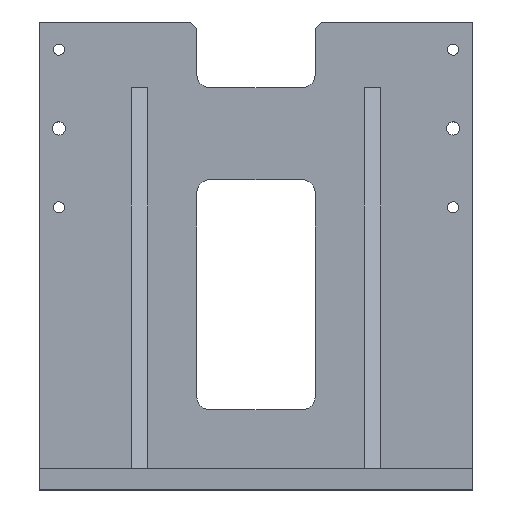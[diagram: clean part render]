
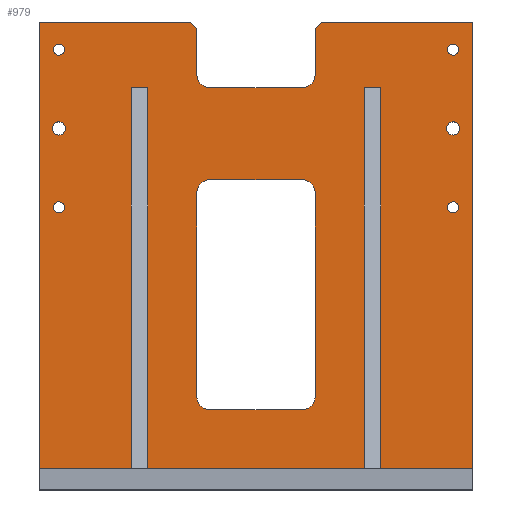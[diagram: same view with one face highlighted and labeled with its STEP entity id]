
A CAD part, top view. The second image highlights one B-rep face of the part: STEP entity #979.
In plain terms, the highlighted planar face has unit normal (0, 0, 1).
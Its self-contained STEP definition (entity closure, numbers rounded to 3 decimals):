
#19=FACE_BOUND($,#149,.T.);
#20=FACE_BOUND($,#150,.T.);
#21=FACE_BOUND($,#151,.T.);
#22=FACE_BOUND($,#152,.T.);
#23=FACE_BOUND($,#153,.T.);
#24=FACE_BOUND($,#154,.T.);
#25=FACE_BOUND($,#155,.T.);
#26=FACE_BOUND($,#156,.T.);
#65=PLANE($,#1047);
#149=EDGE_LOOP($,(#739,#740,#741,#742,#743,#744,#745,#746));
#150=EDGE_LOOP($,(#747,#748,#749,#750,#751,#752,#753,#754,#755,#756,#757,
#758,#759,#760,#761,#762,#763,#764,#765,#766));
#151=EDGE_LOOP($,(#767));
#152=EDGE_LOOP($,(#768));
#153=EDGE_LOOP($,(#769));
#154=EDGE_LOOP($,(#770));
#155=EDGE_LOOP($,(#771));
#156=EDGE_LOOP($,(#772));
#215=LINE($,#1371,#305);
#218=LINE($,#1382,#308);
#223=LINE($,#1395,#313);
#225=LINE($,#1403,#315);
#244=LINE($,#1458,#334);
#248=LINE($,#1464,#338);
#250=LINE($,#1469,#340);
#252=LINE($,#1473,#342);
#256=LINE($,#1484,#346);
#257=LINE($,#1487,#347);
#258=LINE($,#1489,#348);
#259=LINE($,#1491,#349);
#260=LINE($,#1493,#350);
#261=LINE($,#1495,#351);
#262=LINE($,#1497,#352);
#263=LINE($,#1499,#353);
#264=LINE($,#1501,#354);
#265=LINE($,#1503,#355);
#266=LINE($,#1505,#356);
#267=LINE($,#1507,#357);
#268=LINE($,#1509,#358);
#269=LINE($,#1510,#359);
#305=VECTOR($,#1110,155.);
#308=VECTOR($,#1121,70.);
#313=VECTOR($,#1134,70.);
#315=VECTOR($,#1144,155.);
#334=VECTOR($,#1187,7.071);
#338=VECTOR($,#1193,35.);
#340=VECTOR($,#1197,7.071);
#342=VECTOR($,#1201,35.);
#346=VECTOR($,#1215,70.);
#347=VECTOR($,#1218,115.);
#348=VECTOR($,#1219,340.);
#349=VECTOR($,#1220,70.);
#350=VECTOR($,#1221,290.);
#351=VECTOR($,#1222,12.7);
#352=VECTOR($,#1223,290.);
#353=VECTOR($,#1224,164.6);
#354=VECTOR($,#1225,290.);
#355=VECTOR($,#1226,12.7);
#356=VECTOR($,#1227,290.);
#357=VECTOR($,#1228,70.);
#358=VECTOR($,#1229,340.);
#359=VECTOR($,#1230,115.);
#390=CIRCLE($,#1013,10.);
#392=CIRCLE($,#1017,10.);
#394=CIRCLE($,#1021,10.);
#396=CIRCLE($,#1025,10.);
#405=CIRCLE($,#1043,10.);
#406=CIRCLE($,#1045,10.);
#407=CIRCLE($,#1048,5.);
#408=CIRCLE($,#1049,5.);
#409=CIRCLE($,#1050,4.188);
#410=CIRCLE($,#1051,4.188);
#411=CIRCLE($,#1052,4.188);
#412=CIRCLE($,#1053,4.188);
#427=VERTEX_POINT($,#1357);
#428=VERTEX_POINT($,#1359);
#432=VERTEX_POINT($,#1369);
#435=VERTEX_POINT($,#1376);
#436=VERTEX_POINT($,#1378);
#438=VERTEX_POINT($,#1387);
#440=VERTEX_POINT($,#1393);
#442=VERTEX_POINT($,#1399);
#465=VERTEX_POINT($,#1456);
#466=VERTEX_POINT($,#1457);
#467=VERTEX_POINT($,#1462);
#468=VERTEX_POINT($,#1466);
#469=VERTEX_POINT($,#1468);
#470=VERTEX_POINT($,#1472);
#471=VERTEX_POINT($,#1476);
#472=VERTEX_POINT($,#1480);
#473=VERTEX_POINT($,#1486);
#474=VERTEX_POINT($,#1488);
#475=VERTEX_POINT($,#1490);
#476=VERTEX_POINT($,#1492);
#477=VERTEX_POINT($,#1494);
#478=VERTEX_POINT($,#1496);
#479=VERTEX_POINT($,#1498);
#480=VERTEX_POINT($,#1500);
#481=VERTEX_POINT($,#1502);
#482=VERTEX_POINT($,#1504);
#483=VERTEX_POINT($,#1506);
#484=VERTEX_POINT($,#1508);
#485=VERTEX_POINT($,#1511);
#486=VERTEX_POINT($,#1513);
#487=VERTEX_POINT($,#1515);
#488=VERTEX_POINT($,#1517);
#489=VERTEX_POINT($,#1519);
#490=VERTEX_POINT($,#1521);
#519=EDGE_CURVE($,#427,#428,#390,.T.);
#525=EDGE_CURVE($,#427,#432,#215,.T.);
#528=EDGE_CURVE($,#435,#436,#392,.T.);
#530=EDGE_CURVE($,#435,#428,#218,.T.);
#534=EDGE_CURVE($,#438,#432,#394,.T.);
#537=EDGE_CURVE($,#438,#440,#223,.T.);
#540=EDGE_CURVE($,#442,#440,#396,.T.);
#541=EDGE_CURVE($,#442,#436,#225,.T.);
#568=EDGE_CURVE($,#465,#466,#244,.T.);
#572=EDGE_CURVE($,#465,#467,#248,.T.);
#574=EDGE_CURVE($,#468,#469,#250,.T.);
#576=EDGE_CURVE($,#470,#469,#252,.T.);
#578=EDGE_CURVE($,#471,#467,#405,.T.);
#580=EDGE_CURVE($,#470,#472,#406,.T.);
#582=EDGE_CURVE($,#471,#472,#256,.T.);
#583=EDGE_CURVE($,#468,#473,#257,.T.);
#584=EDGE_CURVE($,#473,#474,#258,.T.);
#585=EDGE_CURVE($,#474,#475,#259,.T.);
#586=EDGE_CURVE($,#475,#476,#260,.T.);
#587=EDGE_CURVE($,#476,#477,#261,.T.);
#588=EDGE_CURVE($,#477,#478,#262,.T.);
#589=EDGE_CURVE($,#478,#479,#263,.T.);
#590=EDGE_CURVE($,#479,#480,#264,.T.);
#591=EDGE_CURVE($,#480,#481,#265,.T.);
#592=EDGE_CURVE($,#481,#482,#266,.T.);
#593=EDGE_CURVE($,#482,#483,#267,.T.);
#594=EDGE_CURVE($,#483,#484,#268,.T.);
#595=EDGE_CURVE($,#484,#466,#269,.T.);
#596=EDGE_CURVE($,#485,#485,#407,.T.);
#597=EDGE_CURVE($,#486,#486,#408,.T.);
#598=EDGE_CURVE($,#487,#487,#409,.T.);
#599=EDGE_CURVE($,#488,#488,#410,.T.);
#600=EDGE_CURVE($,#489,#489,#411,.T.);
#601=EDGE_CURVE($,#490,#490,#412,.T.);
#739=ORIENTED_EDGE($,*,*,#525,.T.);
#740=ORIENTED_EDGE($,*,*,#534,.F.);
#741=ORIENTED_EDGE($,*,*,#537,.T.);
#742=ORIENTED_EDGE($,*,*,#540,.F.);
#743=ORIENTED_EDGE($,*,*,#541,.T.);
#744=ORIENTED_EDGE($,*,*,#528,.F.);
#745=ORIENTED_EDGE($,*,*,#530,.T.);
#746=ORIENTED_EDGE($,*,*,#519,.F.);
#747=ORIENTED_EDGE($,*,*,#568,.F.);
#748=ORIENTED_EDGE($,*,*,#572,.T.);
#749=ORIENTED_EDGE($,*,*,#578,.F.);
#750=ORIENTED_EDGE($,*,*,#582,.T.);
#751=ORIENTED_EDGE($,*,*,#580,.F.);
#752=ORIENTED_EDGE($,*,*,#576,.T.);
#753=ORIENTED_EDGE($,*,*,#574,.F.);
#754=ORIENTED_EDGE($,*,*,#583,.T.);
#755=ORIENTED_EDGE($,*,*,#584,.T.);
#756=ORIENTED_EDGE($,*,*,#585,.T.);
#757=ORIENTED_EDGE($,*,*,#586,.T.);
#758=ORIENTED_EDGE($,*,*,#587,.T.);
#759=ORIENTED_EDGE($,*,*,#588,.T.);
#760=ORIENTED_EDGE($,*,*,#589,.T.);
#761=ORIENTED_EDGE($,*,*,#590,.T.);
#762=ORIENTED_EDGE($,*,*,#591,.T.);
#763=ORIENTED_EDGE($,*,*,#592,.T.);
#764=ORIENTED_EDGE($,*,*,#593,.T.);
#765=ORIENTED_EDGE($,*,*,#594,.T.);
#766=ORIENTED_EDGE($,*,*,#595,.T.);
#767=ORIENTED_EDGE($,*,*,#596,.T.);
#768=ORIENTED_EDGE($,*,*,#597,.T.);
#769=ORIENTED_EDGE($,*,*,#598,.T.);
#770=ORIENTED_EDGE($,*,*,#599,.T.);
#771=ORIENTED_EDGE($,*,*,#600,.T.);
#772=ORIENTED_EDGE($,*,*,#601,.T.);
#979=ADVANCED_FACE($,(#19,#20,#21,#22,#23,#24,#25,#26),#65,.T.);
#1013=AXIS2_PLACEMENT_3D($,#1360,#1101,#1102);
#1017=AXIS2_PLACEMENT_3D($,#1379,#1116,#1117);
#1021=AXIS2_PLACEMENT_3D($,#1389,#1128,#1129);
#1025=AXIS2_PLACEMENT_3D($,#1401,#1140,#1141);
#1043=AXIS2_PLACEMENT_3D($,#1477,#1205,#1206);
#1045=AXIS2_PLACEMENT_3D($,#1481,#1210,#1211);
#1047=AXIS2_PLACEMENT_3D($,#1485,#1216,#1217);
#1048=AXIS2_PLACEMENT_3D($,#1512,#1231,#1232);
#1049=AXIS2_PLACEMENT_3D($,#1514,#1233,#1234);
#1050=AXIS2_PLACEMENT_3D($,#1516,#1235,#1236);
#1051=AXIS2_PLACEMENT_3D($,#1518,#1237,#1238);
#1052=AXIS2_PLACEMENT_3D($,#1520,#1239,#1240);
#1053=AXIS2_PLACEMENT_3D($,#1522,#1241,#1242);
#1101=DIRECTION('center_axis',(0.,0.,1.));
#1102=DIRECTION('ref_axis',(-0.707,-0.707,0.));
#1110=DIRECTION($,(0.,1.,0.));
#1116=DIRECTION('center_axis',(0.,0.,1.));
#1117=DIRECTION('ref_axis',(0.707,-0.707,0.));
#1121=DIRECTION($,(-1.,0.,0.));
#1128=DIRECTION('center_axis',(0.,0.,1.));
#1129=DIRECTION('ref_axis',(-0.707,0.707,0.));
#1134=DIRECTION($,(1.,0.,0.));
#1140=DIRECTION('center_axis',(0.,0.,1.));
#1141=DIRECTION('ref_axis',(0.707,0.707,0.));
#1144=DIRECTION($,(0.,-1.,0.));
#1187=DIRECTION($,(0.707,0.707,0.));
#1193=DIRECTION($,(0.,-1.,0.));
#1197=DIRECTION($,(0.707,-0.707,0.));
#1201=DIRECTION($,(0.,1.,0.));
#1205=DIRECTION('center_axis',(0.,0.,1.));
#1206=DIRECTION('ref_axis',(0.707,-0.707,0.));
#1210=DIRECTION('center_axis',(0.,0.,1.));
#1211=DIRECTION('ref_axis',(-0.707,-0.707,0.));
#1215=DIRECTION($,(-1.,0.,0.));
#1216=DIRECTION('center_axis',(0.,0.,1.));
#1217=DIRECTION('ref_axis',(1.,0.,0.));
#1218=DIRECTION($,(-1.,0.,0.));
#1219=DIRECTION($,(0.,-1.,0.));
#1220=DIRECTION($,(1.,0.,0.));
#1221=DIRECTION($,(0.,1.,0.));
#1222=DIRECTION($,(1.,0.,0.));
#1223=DIRECTION($,(0.,-1.,0.));
#1224=DIRECTION($,(1.,0.,0.));
#1225=DIRECTION($,(0.,1.,0.));
#1226=DIRECTION($,(1.,0.,0.));
#1227=DIRECTION($,(0.,-1.,0.));
#1228=DIRECTION($,(1.,0.,0.));
#1229=DIRECTION($,(0.,1.,0.));
#1230=DIRECTION($,(-1.,0.,0.));
#1231=DIRECTION('center_axis',(0.,0.,-1.));
#1232=DIRECTION('ref_axis',(-1.,0.,0.));
#1233=DIRECTION('center_axis',(0.,0.,-1.));
#1234=DIRECTION('ref_axis',(-1.,0.,0.));
#1235=DIRECTION('center_axis',(0.,0.,-1.));
#1236=DIRECTION('ref_axis',(-1.,0.,0.));
#1237=DIRECTION('center_axis',(0.,0.,-1.));
#1238=DIRECTION('ref_axis',(-1.,0.,0.));
#1239=DIRECTION('center_axis',(0.,0.,-1.));
#1240=DIRECTION('ref_axis',(-1.,0.,0.));
#1241=DIRECTION('center_axis',(0.,0.,-1.));
#1242=DIRECTION('ref_axis',(-1.,0.,0.));
#1357=CARTESIAN_POINT('',(-45.,-115.,19.05));
#1359=CARTESIAN_POINT('',(-35.,-125.,19.05));
#1360=CARTESIAN_POINT('Origin',(-35.,-115.,19.05));
#1369=CARTESIAN_POINT('',(-45.,40.,19.05));
#1371=CARTESIAN_POINT($,(-45.,25.,19.05));
#1376=CARTESIAN_POINT('',(35.,-125.,19.05));
#1378=CARTESIAN_POINT('',(45.,-115.,19.05));
#1379=CARTESIAN_POINT('Origin',(35.,-115.,19.05));
#1382=CARTESIAN_POINT($,(-22.5,-125.,19.05));
#1387=CARTESIAN_POINT('',(-35.,50.,19.05));
#1389=CARTESIAN_POINT('Origin',(-35.,40.,19.05));
#1393=CARTESIAN_POINT('',(35.,50.,19.05));
#1395=CARTESIAN_POINT($,(22.5,50.,19.05));
#1399=CARTESIAN_POINT('',(45.,40.,19.05));
#1401=CARTESIAN_POINT('Origin',(35.,40.,19.05));
#1403=CARTESIAN_POINT($,(45.,-62.5,19.05));
#1456=CARTESIAN_POINT('',(45.,165.,19.05));
#1457=CARTESIAN_POINT('',(50.,170.,19.05));
#1458=CARTESIAN_POINT($,(-6.25,113.75,19.05));
#1462=CARTESIAN_POINT('',(45.,130.,19.05));
#1464=CARTESIAN_POINT($,(45.,85.,19.05));
#1466=CARTESIAN_POINT('',(-50.,170.,19.05));
#1468=CARTESIAN_POINT('',(-45.,165.,19.05));
#1469=CARTESIAN_POINT($,(6.25,113.75,19.05));
#1472=CARTESIAN_POINT('',(-45.,130.,19.05));
#1473=CARTESIAN_POINT($,(-45.,60.,19.05));
#1476=CARTESIAN_POINT('',(35.,120.,19.05));
#1477=CARTESIAN_POINT('Origin',(35.,130.,19.05));
#1480=CARTESIAN_POINT('',(-35.,120.,19.05));
#1481=CARTESIAN_POINT('Origin',(-35.,130.,19.05));
#1484=CARTESIAN_POINT($,(22.5,120.,19.05));
#1485=CARTESIAN_POINT('Origin',(0.,0.,
19.05));
#1486=CARTESIAN_POINT('',(-165.,170.,19.05));
#1487=CARTESIAN_POINT($,(-165.,170.,19.05));
#1488=CARTESIAN_POINT('',(-165.,-170.,19.05));
#1489=CARTESIAN_POINT($,(-165.,-170.,19.05));
#1490=CARTESIAN_POINT('',(-95.,-170.,19.05));
#1491=CARTESIAN_POINT($,(165.,-170.,19.05));
#1492=CARTESIAN_POINT('',(-95.,120.,19.05));
#1493=CARTESIAN_POINT($,(-95.,-25.051,19.05));
#1494=CARTESIAN_POINT('',(-82.3,120.,19.05));
#1495=CARTESIAN_POINT($,(-47.5,120.,19.05));
#1496=CARTESIAN_POINT('',(-82.3,-170.,19.05));
#1497=CARTESIAN_POINT($,(-82.3,-25.051,19.05));
#1498=CARTESIAN_POINT('',(82.3,-170.,19.05));
#1499=CARTESIAN_POINT($,(165.,-170.,19.05));
#1500=CARTESIAN_POINT('',(82.3,120.,19.05));
#1501=CARTESIAN_POINT($,(82.3,-25.051,19.05));
#1502=CARTESIAN_POINT('',(95.,120.,19.05));
#1503=CARTESIAN_POINT($,(47.5,120.,19.05));
#1504=CARTESIAN_POINT('',(95.,-170.,19.05));
#1505=CARTESIAN_POINT($,(95.,-25.051,19.05));
#1506=CARTESIAN_POINT('',(165.,-170.,19.05));
#1507=CARTESIAN_POINT($,(165.,-170.,19.05));
#1508=CARTESIAN_POINT('',(165.,170.,19.05));
#1509=CARTESIAN_POINT($,(165.,170.,19.05));
#1510=CARTESIAN_POINT($,(-165.,170.,19.05));
#1511=CARTESIAN_POINT('',(-145.,89.,19.05));
#1512=CARTESIAN_POINT('Origin',(-150.,89.,19.05));
#1513=CARTESIAN_POINT('',(155.,89.,19.05));
#1514=CARTESIAN_POINT('Origin',(150.,89.,19.05));
#1515=CARTESIAN_POINT('',(-145.812,29.,19.05));
#1516=CARTESIAN_POINT('Origin',(-150.,29.,19.05));
#1517=CARTESIAN_POINT('',(154.188,149.,19.05));
#1518=CARTESIAN_POINT('Origin',(150.,149.,19.05));
#1519=CARTESIAN_POINT('',(154.188,29.,19.05));
#1520=CARTESIAN_POINT('Origin',(150.,29.,19.05));
#1521=CARTESIAN_POINT('',(-145.812,149.,19.05));
#1522=CARTESIAN_POINT('Origin',(-150.,149.,19.05));
